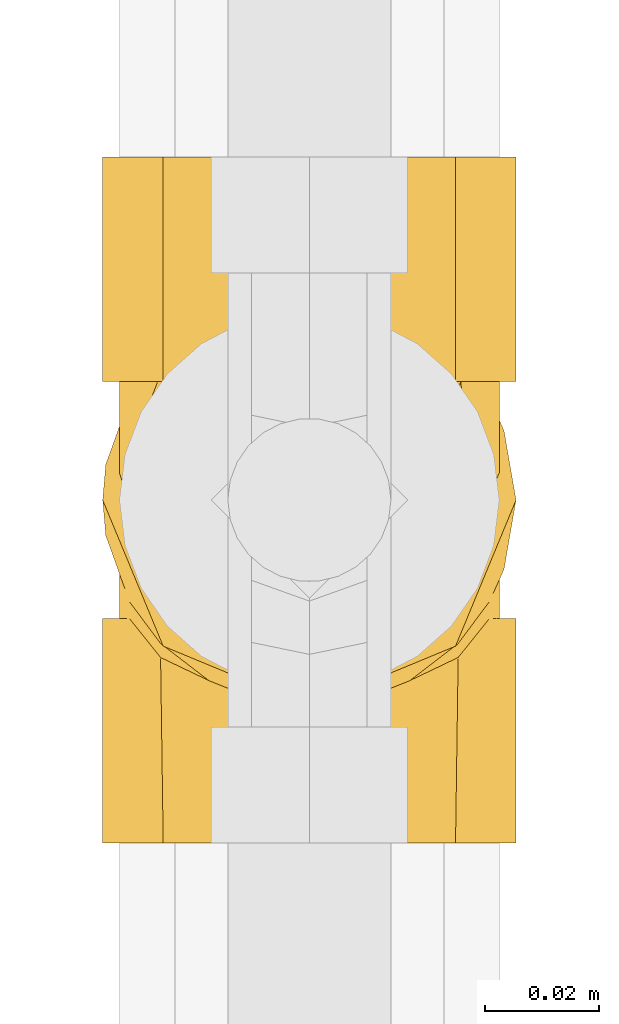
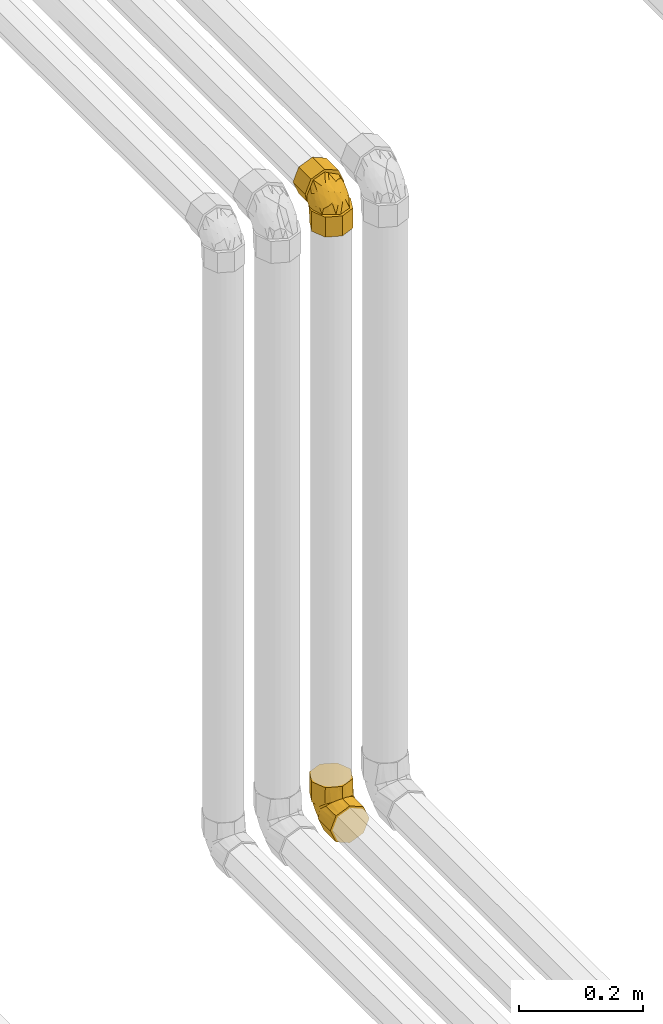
# One storey, part 247 of 652: 2 coverings.
"""IFC2X3 building model written with IfcOpenShell, lengths in millimetres."""

from ifc_helpers import new_model, entity, si_unit, converted_unit, direction, frame, origin, place, context, subcontext, project, spatial, faceted_brep, material, type_object, element, save


model = new_model("IFC2X3")

# Units and contexts
model_context = context("Model", 3, precision=0.01, world=frame((0.0, 0.0, 308426.39999999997)), true_north=direction((6.123233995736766e-17, 1.0)))
plan_context = context("Plan", 3, precision=0.01, world=frame((0.0, 0.0, 308426.39999999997)), true_north=direction((6.123233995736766e-17, 1.0)))
body_context = subcontext(model_context, "Body", "Model", "MODEL_VIEW")
ifc_project = project(units=[si_unit("LENGTHUNIT", "METRE", prefix="MILLI"), si_unit("AREAUNIT", "SQUARE_METRE"), si_unit("VOLUMEUNIT", "CUBIC_METRE"), converted_unit("PLANEANGLEUNIT", "DEGREE", entity("IfcPlaneAngleMeasure", 0.017453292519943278), si_unit("PLANEANGLEUNIT", "RADIAN"), dimensions=[0, 0, 0, 0, 0, 0, 0])], contexts=[model_context, plan_context])

# Site, building, storey
site_placement = place(None, origin())
site = spatial("IfcSite", under=ifc_project, at=site_placement, Name="Default", CompositionType="ELEMENT")
building_placement = place(site_placement, origin())
building = spatial("IfcBuilding", under=site, at=building_placement, CompositionType="ELEMENT")
storey_placement = place(building_placement, frame((0.0, 0.0, 1730.6999999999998)))
storey = spatial("IfcBuildingStorey", under=building, at=storey_placement, Name="EG_Produktion_FFB", CompositionType="ELEMENT", Elevation=1730.6999999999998)

# Coverings
ifc_material = material(Name="Dämmung - Armaflex-Schlauch")
covering_type = type_object("IfcCoveringType", Name="Rohrdämmung außen:Armaflex-Schlauch", PredefinedType="INSULATION")
covering_1_placement = place(storey_placement, frame((77742.20272776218, 51577.977603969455, 2362.2027277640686)))
element("IfcCovering", 1, at=covering_1_placement, inside=storey, type_object=covering_type, material=ifc_material, Name="Rohrdämmung außen:Armaflex-Schlauch", ObjectType="Rohrdämmung außen:Armaflex-Schlauch", PredefinedType="INSULATION", context=body_context, shape_type="Brep", body=[
    faceted_brep([(71.87876124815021, 47.84268255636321, 58.588772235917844), (69.29766488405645, 42.20950377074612, 58.588772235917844), (70.60633213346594, 48.65740674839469, 58.588772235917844), (71.08477223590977, 55.22156502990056, 58.588772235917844), (67.71555609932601, 62.98224402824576, 58.588772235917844), (64.3463399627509, 70.7429230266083, 58.588772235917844), (61.730299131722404, 76.76873209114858, 58.588772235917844), (59.11425830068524, 82.79454115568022, 58.588772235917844), (48.455765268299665, 86.80982431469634, 58.588772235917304), (37.79727223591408, 90.82510747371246, 58.588772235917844), (31.165885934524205, 87.38600173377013, 58.588772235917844), (24.534499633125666, 83.94689599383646, 58.588772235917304), (17.903113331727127, 80.5077902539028, 58.588772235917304), (11.271727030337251, 77.0686845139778, 58.588772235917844), (9.162676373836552, 70.25457778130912, 58.588772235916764), (7.053625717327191, 63.44047104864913, 58.588772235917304), (4.509772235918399, 55.22156502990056, 58.588772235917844), (4.988212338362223, 48.65740674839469, 58.588772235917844), (6.296879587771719, 42.20950377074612, 58.588772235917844), (2.1312790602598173, 53.8441619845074, 58.588772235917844), (1.5952722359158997, 60.05075000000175, 58.588772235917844), (4.747598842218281, 67.66113964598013, 58.588772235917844), (6.896932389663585, 72.85008984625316, 58.588772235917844), (9.547762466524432, 79.24975976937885, 58.588772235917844), (12.198592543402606, 85.64942969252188, 58.588772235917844), (18.598262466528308, 88.30025976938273, 58.588772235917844), (24.99793238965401, 90.9510898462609, 58.588772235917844), (31.39760231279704, 93.60191992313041, 58.588772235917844), (37.79727223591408, 96.25274999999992, 58.588772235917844), (45.407662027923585, 93.10042333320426, 58.588772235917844), (50.596612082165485, 90.9510898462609, 58.588772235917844), (56.996282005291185, 88.30025976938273, 58.588772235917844), (63.39595192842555, 85.64942969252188, 58.588772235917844), (66.04678200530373, 79.24975976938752, 58.588772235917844), (68.69761208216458, 72.85008984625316, 58.588772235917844), (71.34844215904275, 66.45041992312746, 58.588772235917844), (73.99927223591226, 60.05075000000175, 58.588772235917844), (12.198592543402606, 34.452070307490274, 97.84802223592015), (18.598262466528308, 31.801240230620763, 97.84802223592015), (24.99793238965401, 29.150410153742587, 97.84802223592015), (31.39760231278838, 26.499580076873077, 97.84802223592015), (37.79727223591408, 23.848750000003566, 97.84802223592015), (44.19694215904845, 26.499580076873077, 97.84802223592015), (50.59661208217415, 29.150410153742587, 97.84802223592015), (56.996282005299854, 31.801240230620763, 97.84802223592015), (63.39595192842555, 34.452070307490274, 97.84802223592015), (66.04678200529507, 40.851740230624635, 97.84802223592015), (68.69761208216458, 47.25141015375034, 97.84802223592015), (71.34844215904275, 53.65108007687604, 97.84802223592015), (73.99927223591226, 60.05075000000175, 97.84802223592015), (71.34844215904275, 66.45041992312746, 97.84802223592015), (68.69761208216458, 72.85008984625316, 97.84802223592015), (66.04678200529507, 79.24975976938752, 97.84802223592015), (63.39595192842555, 85.64942969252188, 97.84802223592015), (53.01805258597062, 89.94809634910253, 97.84802223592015), (45.407662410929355, 93.10042317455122, 97.84802223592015), (37.79727223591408, 96.25274999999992, 97.84802223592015), (31.39760231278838, 93.60191992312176, 97.84802223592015), (24.99793238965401, 90.9510898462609, 97.84802223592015), (18.598262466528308, 88.30025976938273, 97.84802223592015), (12.198592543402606, 85.64942969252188, 97.84802223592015), (7.899925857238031, 75.27153027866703, 97.84802223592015), (4.7475990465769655, 67.66114013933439, 97.84802223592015), (1.5952722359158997, 60.05075000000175, 97.84802223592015), (4.2461023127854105, 53.65108007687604, 97.84802223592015), (6.896932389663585, 47.25141015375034, 97.84802223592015), (9.547762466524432, 40.851740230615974, 97.84802223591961), (11.740817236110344, 34.91818234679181, 65.38133308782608), (28.451279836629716, 25.075941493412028, 72.77208074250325), (20.176179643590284, 28.426678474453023, 69.42134376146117), (37.79727223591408, 23.848750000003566, 73.99927223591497), (63.85372723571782, 34.91818234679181, 65.38133308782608), (47.14326463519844, 25.075941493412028, 72.77208074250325), (55.41836482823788, 28.426678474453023, 69.42134376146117), (73.99927223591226, 39.259249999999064, 37.797272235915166), (70.84694554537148, 39.259249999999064, 30.186882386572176), (68.69761208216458, 39.259249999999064, 24.99793238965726), (66.0467820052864, 39.259249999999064, 18.598262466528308), (63.39595192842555, 39.259249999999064, 12.198592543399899), (56.996282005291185, 39.259249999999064, 9.547762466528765), (50.59661208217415, 39.259249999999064, 6.8969323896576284), (44.19694215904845, 39.259249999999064, 4.246102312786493), (37.79727223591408, 39.259249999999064, 1.5952722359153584), (30.18688283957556, 39.259249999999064, 4.747598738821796), (24.99793238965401, 39.259249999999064, 6.8969323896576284), (18.598262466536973, 39.259249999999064, 9.547762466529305), (12.198592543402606, 39.259249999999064, 12.198592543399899), (9.547762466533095, 39.259249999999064, 18.59826246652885), (6.896932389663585, 39.259249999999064, 24.99793238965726), (4.2461023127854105, 39.259249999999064, 31.397602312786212), (1.5952722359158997, 39.259249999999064, 37.797272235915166), (3.7153254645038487, 39.259249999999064, 50.004061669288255), (6.296879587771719, 39.259249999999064, 55.63851846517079), (4.988212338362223, 39.259249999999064, 49.19061548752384), (4.509772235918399, 39.259249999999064, 42.626457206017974), (7.87898827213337, 39.259249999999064, 34.86577843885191), (11.248204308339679, 39.259249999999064, 27.10509967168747), (13.864245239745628, 39.259249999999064, 21.07929037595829), (16.480286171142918, 39.259249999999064, 15.053481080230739), (27.138779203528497, 39.259249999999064, 11.038197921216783), (37.79727223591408, 39.259249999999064, 7.022914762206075), (44.42865853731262, 39.259249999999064, 10.462020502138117), (51.060044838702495, 39.259249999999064, 13.901126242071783), (57.69143114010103, 39.259249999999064, 17.340231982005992), (64.32281744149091, 39.259249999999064, 20.779337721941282), (66.43186813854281, 39.259249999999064, 27.593444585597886), (68.54091883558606, 39.259249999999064, 34.40755144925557), (71.08477223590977, 39.259249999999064, 42.626457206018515), (70.60633213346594, 39.259249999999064, 49.19061548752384), (69.29766488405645, 39.259249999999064, 55.63851846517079), (73.46335606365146, 39.259249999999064, 44.0033392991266), (12.198592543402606, 0.0, 12.198592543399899), (22.576492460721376, 0.0, 7.899925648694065), (30.186882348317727, 0.0, 4.747598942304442), (37.79727223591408, 0.0, 1.5952722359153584), (44.19694215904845, 0.0, 4.246102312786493), (50.59661208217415, 0.0, 6.8969323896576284), (56.996282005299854, 0.0, 9.547762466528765), (63.39595192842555, 0.0, 12.198592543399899), (67.69461857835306, 0.0, 22.576491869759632), (70.84694540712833, 0.0, 30.186882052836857), (73.99927223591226, 0.0, 37.797272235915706), (71.34844215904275, 0.0, 44.19694215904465), (68.69761208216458, 0.0, 50.59661208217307), (66.04678200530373, 0.0, 56.996282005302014), (63.39595192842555, 0.0, 63.39595192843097), (56.996282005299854, 0.0, 66.04678200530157), (50.59661208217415, 0.0, 68.69761208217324), (44.19694215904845, 0.0, 71.34844215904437), (37.79727223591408, 0.0, 73.99927223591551), (31.39760231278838, 0.0, 71.34844215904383), (24.99793238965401, 0.0, 68.69761208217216), (18.598262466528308, 0.0, 66.04678200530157), (12.198592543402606, 0.0, 63.39595192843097), (9.547762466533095, 0.0, 56.996282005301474), (6.896932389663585, 0.0, 50.59661208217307), (4.2461023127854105, 0.0, 44.19694215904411), (1.5952722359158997, 0.0, 37.797272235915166), (4.2461023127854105, 0.0, 31.397602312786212), (6.896932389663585, 0.0, 24.99793238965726), (9.547762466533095, 0.0, 18.59826246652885), (11.737179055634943, 32.46931160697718, 62.92606742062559), (63.85736541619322, 32.46931160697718, 62.92606742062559), (7.176889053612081, 64.46975709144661, 48.63619914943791), (5.499665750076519, 53.53620771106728, 43.20614956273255), (4.509772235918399, 48.39608948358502, 49.451932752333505), (4.509772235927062, 51.69618600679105, 53.869566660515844), (4.509772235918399, 43.97845581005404, 46.15183640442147), (7.4096192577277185, 49.266854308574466, 32.77820750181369), (20.658922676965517, 70.89302761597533, 31.709116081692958), (28.033803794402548, 80.76404412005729, 39.27595733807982), (28.62447939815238, 68.07920285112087, 24.043589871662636), (14.417993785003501, 76.4220811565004, 47.986246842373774), (13.497052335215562, 68.93208707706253, 38.31563958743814), (10.22773262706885, 70.34057210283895, 47.45975333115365), (22.28882316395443, 56.04646872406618, 18.30781415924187), (14.07759439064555, 56.37753332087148, 25.792131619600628), (10.29838437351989, 54.931614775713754, 30.4094271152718), (20.692179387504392, 79.8641260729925, 44.141690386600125), (29.78499012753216, 55.72937800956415, 14.816734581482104), (37.79727223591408, 71.93390646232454, 25.914115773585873), (37.79727223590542, 82.58887454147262, 44.343194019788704), (37.79727223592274, 53.50482934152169, 15.25914834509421), (8.406458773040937, 59.635611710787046, 38.590887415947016), (71.08477223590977, 48.39608948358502, 49.451932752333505), (71.0847722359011, 51.6961860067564, 53.869566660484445), (71.0847722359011, 43.97845581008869, 46.15183640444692), (70.09487873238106, 54.64187234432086, 44.31181424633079), (62.097492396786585, 59.532384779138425, 28.91593723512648), (61.51694989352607, 72.055892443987, 41.4704912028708), (65.29616002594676, 67.43859640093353, 42.916409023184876), (54.93562200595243, 66.13891003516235, 26.95499830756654), (53.30572110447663, 79.54021097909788, 41.801558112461), (46.97006507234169, 73.80443609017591, 29.768823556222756), (45.80955540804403, 83.03128998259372, 42.11864888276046), (68.18492515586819, 65.06981549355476, 48.58116886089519), (47.5607401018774, 58.572069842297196, 17.083981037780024), (61.176550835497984, 49.86177721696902, 21.425942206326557), (65.36681198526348, 50.38826994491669, 27.507451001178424), (54.90236573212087, 53.706335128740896, 17.983898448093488), (68.41765540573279, 49.211823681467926, 33.37826549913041), (67.18808574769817, 59.257135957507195, 38.212411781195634)], [[[0, 1, 2, 3, 4, 5, 6, 7, 8, 9, 10, 11, 12, 13, 14, 15, 16, 17, 18, 19, 20, 21, 22, 23, 24, 25, 26, 27, 28, 29, 30, 31, 32, 33, 34, 35, 36]], [[37, 38, 39, 40, 41, 42, 43, 44, 45, 46, 47, 48, 49, 50, 51, 52, 53, 54, 55, 56, 57, 58, 59, 60, 61, 62, 63, 64, 65, 66]], [[38, 37, 67]], [[66, 67, 37]], [[67, 66, 18]], [[68, 39, 69]], [[69, 39, 38]], [[69, 38, 67]], [[65, 19, 18]], [[20, 19, 63]], [[40, 70, 41]], [[19, 65, 64, 63]], [[40, 39, 68]], [[70, 40, 68]], [[66, 65, 18]], [[63, 62, 61, 60, 24, 23, 22, 21, 20]], [[24, 60, 59, 58, 57, 56, 28, 27, 26, 25]], [[29, 28, 56, 55, 54, 53, 32, 31, 30]], [[32, 53, 52, 51, 50, 49, 36, 35, 34, 33]], [[71, 1, 46]], [[0, 47, 1]], [[1, 47, 46]], [[72, 43, 42]], [[71, 46, 45]], [[44, 71, 45]], [[36, 48, 0]], [[70, 42, 41]], [[48, 47, 0]], [[73, 43, 72]], [[71, 44, 73]], [[42, 70, 72]], [[48, 36, 49]], [[44, 43, 73]], [[74, 75, 76, 77, 78, 79, 80, 81, 82, 83, 84, 85, 86, 87, 88, 89, 90, 91, 92, 93, 94, 95, 96, 97, 98, 99, 100, 101, 102, 103, 104, 105, 106, 107, 108, 109, 110]], [[111, 112, 113, 114, 115, 116, 117, 118, 119, 120, 121, 122, 123, 124, 125, 126, 127, 128, 129, 130, 131, 132, 133, 134, 135, 136, 137, 138, 139, 140]], [[114, 113, 112, 111, 86, 85, 84, 83, 82]], [[86, 111, 140, 139, 138, 137, 90, 89, 88, 87]], [[141, 92, 134]], [[91, 135, 92]], [[68, 131, 130]], [[134, 133, 141]], [[132, 141, 133]], [[136, 135, 91]], [[90, 136, 91]], [[70, 130, 129]], [[136, 90, 137]], [[69, 131, 68]], [[141, 132, 69]], [[130, 70, 68]], [[92, 135, 134]], [[132, 131, 69]], [[126, 125, 142]], [[124, 142, 125]], [[142, 124, 109]], [[72, 127, 73]], [[73, 127, 126]], [[73, 126, 142]], [[123, 110, 109]], [[74, 110, 121]], [[128, 70, 129]], [[110, 123, 122, 121]], [[128, 127, 72]], [[70, 128, 72]], [[124, 123, 109]], [[75, 74, 121, 120, 119, 118, 78, 77, 76]], [[78, 118, 117, 116, 115, 114, 82, 81, 80, 79]], [[15, 143, 144]], [[144, 145, 146, 16]], [[144, 94, 147, 145]], [[96, 95, 148]], [[149, 150, 151]], [[152, 153, 154]], [[149, 155, 156]], [[153, 156, 157]], [[152, 158, 153]], [[16, 15, 144]], [[151, 159, 155]], [[96, 148, 157]], [[151, 155, 149]], [[153, 149, 156]], [[156, 97, 157]], [[160, 159, 151]], [[98, 156, 155]], [[99, 98, 155]], [[160, 150, 161]], [[99, 159, 100]], [[159, 160, 162, 100]], [[160, 151, 150]], [[150, 11, 10]], [[150, 149, 158]], [[10, 161, 150]], [[9, 161, 10]], [[99, 155, 159]], [[143, 15, 14]], [[152, 13, 12]], [[158, 12, 11]], [[150, 158, 11]], [[153, 158, 149]], [[158, 152, 12]], [[154, 163, 143]], [[154, 143, 14]], [[154, 13, 152]], [[143, 163, 144]], [[148, 144, 163]], [[94, 144, 95]], [[154, 14, 13]], [[163, 154, 153]], [[144, 148, 95]], [[157, 148, 163]], [[153, 157, 163]], [[156, 98, 97]], [[96, 157, 97]], [[18, 17, 145]], [[67, 141, 69]], [[141, 67, 18]], [[17, 16, 146, 145]], [[147, 94, 93, 145]], [[141, 18, 92]], [[93, 92, 145]], [[92, 18, 145]], [[164, 1, 109]], [[2, 164, 165, 3]], [[164, 2, 1]], [[1, 71, 142]], [[142, 109, 1]], [[108, 107, 166, 164]], [[108, 164, 109]], [[142, 71, 73]], [[107, 106, 167]], [[168, 169, 170]], [[171, 172, 169]], [[173, 172, 171]], [[167, 164, 166, 107]], [[173, 174, 172]], [[175, 170, 5]], [[168, 171, 169]], [[167, 3, 165, 164]], [[176, 173, 171]], [[177, 168, 178]], [[5, 4, 175]], [[177, 179, 168]], [[106, 180, 167]], [[169, 6, 170]], [[160, 174, 173]], [[7, 169, 172]], [[8, 7, 172]], [[160, 176, 162]], [[8, 174, 9]], [[174, 160, 161, 9]], [[160, 173, 176]], [[176, 102, 101]], [[176, 171, 179]], [[101, 162, 176]], [[100, 162, 101]], [[8, 172, 174]], [[180, 106, 105]], [[177, 104, 103]], [[179, 103, 102]], [[176, 179, 102]], [[168, 179, 171]], [[179, 177, 103]], [[178, 181, 180]], [[178, 180, 105]], [[178, 104, 177]], [[180, 181, 167]], [[175, 167, 181]], [[3, 167, 4]], [[178, 105, 104]], [[181, 178, 168]], [[167, 175, 4]], [[170, 175, 181]], [[168, 170, 181]], [[169, 7, 6]], [[5, 170, 6]]]),
])
covering_2_placement = place(storey_placement, frame((77742.20272776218, 51600.23108173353, 3539.949250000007)))
element("IfcCovering", 2, at=covering_2_placement, inside=storey, type_object=covering_type, material=ifc_material, Name="Rohrdämmung außen:Armaflex-Schlauch", ObjectType="Rohrdämmung außen:Armaflex-Schlauch", PredefinedType="INSULATION", context=body_context, shape_type="Brep", body=[
    faceted_brep([(71.87876124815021, 50.00533967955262, 39.25925000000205), (69.29766488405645, 55.6385184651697, 39.25925000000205), (70.60633213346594, 49.190615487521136, 39.25925000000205), (71.08477223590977, 42.62645720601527, 39.25925000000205), (67.71445901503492, 34.86648289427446, 39.25925000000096), (64.3441457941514, 27.106508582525, 39.25925000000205), (61.725192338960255, 21.076501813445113, 39.25925000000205), (59.10623888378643, 15.0464950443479, 39.25925000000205), (48.45175555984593, 11.034704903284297, 39.25925000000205), (37.79727223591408, 7.022914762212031, 39.25925000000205), (31.16766916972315, 10.459541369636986, 39.25925000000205), (24.53806610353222, 13.896167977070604, 39.25925000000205), (17.908463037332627, 17.332794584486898, 39.25925000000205), (11.278859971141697, 20.769421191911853, 39.25925000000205), (9.166908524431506, 27.58880374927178, 39.25925000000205), (7.054957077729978, 34.408186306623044, 39.25925000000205), (4.509772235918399, 42.62645720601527, 39.25925000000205), (4.988212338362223, 49.190615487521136, 39.25925000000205), (6.296879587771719, 55.6385184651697, 39.25925000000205), (2.1312790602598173, 44.003860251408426, 39.25925000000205), (1.5952722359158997, 37.79727223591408, 39.25925000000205), (4.747598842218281, 30.18688258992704, 39.25925000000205), (6.896932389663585, 24.99793238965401, 39.25925000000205), (9.547762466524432, 18.598262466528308, 39.25925000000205), (12.198592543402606, 12.198592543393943, 39.25925000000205), (18.598262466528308, 9.547762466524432, 39.25925000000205), (24.99793238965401, 6.896932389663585, 39.25925000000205), (31.39760231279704, 4.246102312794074, 39.25925000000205), (37.79727223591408, 1.5952722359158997, 39.25925000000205), (45.407662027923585, 4.74759890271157, 39.25925000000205), (50.596612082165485, 6.896932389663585, 39.25925000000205), (56.996282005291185, 9.547762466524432, 39.25925000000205), (63.39595192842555, 12.198592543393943, 39.25925000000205), (66.04678200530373, 18.598262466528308, 39.25925000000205), (68.69761208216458, 24.99793238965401, 39.25925000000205), (71.34844215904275, 31.39760231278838, 39.25925000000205), (73.99927223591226, 37.79727223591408, 39.25925000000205), (12.198592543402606, 63.39595192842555, 0.0), (18.598262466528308, 66.04678200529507, 0.0), (24.99793238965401, 68.69761208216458, 0.0), (31.39760231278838, 71.34844215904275, 0.0), (37.79727223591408, 73.99927223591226, 0.0), (44.19694215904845, 71.34844215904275, 0.0), (50.59661208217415, 68.69761208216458, 0.0), (56.996282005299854, 66.04678200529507, 0.0), (63.39595192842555, 63.39595192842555, 0.0), (66.04678200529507, 56.996282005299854, 0.0), (68.69761208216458, 50.59661208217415, 0.0), (71.34844215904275, 44.19694215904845, 0.0), (73.99927223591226, 37.79727223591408, 0.0), (71.34844215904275, 31.39760231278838, 0.0), (68.69761208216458, 24.99793238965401, 0.0), (66.04678200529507, 18.598262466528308, 0.0), (63.39595192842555, 12.198592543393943, 0.0), (53.01805258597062, 7.899925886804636, 0.0), (45.407662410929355, 4.7475990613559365, 0.0), (37.79727223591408, 1.5952722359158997, 0.0), (31.39760231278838, 4.2461023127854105, 0.0), (24.99793238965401, 6.896932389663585, 0.0), (18.598262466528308, 9.547762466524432, 0.0), (12.198592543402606, 12.198592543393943, 0.0), (7.899925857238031, 22.576491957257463, 0.0), (4.7475990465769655, 30.186882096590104, 0.0), (1.5952722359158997, 37.79727223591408, 0.0), (4.2461023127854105, 44.196942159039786, 0.0), (6.896932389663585, 50.59661208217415, 0.0), (9.547762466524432, 56.996282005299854, 0.0), (11.740817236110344, 62.92983988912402, 32.466689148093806), (28.451279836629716, 72.7720807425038, 25.07594149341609), (20.176179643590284, 69.42134376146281, 28.42667847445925), (37.79727223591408, 73.99927223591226, 23.848750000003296), (63.85372723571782, 62.92983988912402, 32.466689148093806), (47.14326463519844, 72.7720807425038, 25.07594149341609), (55.41836482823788, 69.42134376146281, 28.42667847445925), (73.99927223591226, 58.588772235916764, 60.05075000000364), (70.84694554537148, 58.588772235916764, 67.66113984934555), (68.69761208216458, 58.588772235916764, 72.85008984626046), (66.0467820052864, 58.588772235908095, 79.24975976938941), (63.39595192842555, 58.588772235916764, 85.64942969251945), (56.996282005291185, 58.588772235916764, 88.30025976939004), (50.59661208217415, 58.588772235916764, 90.95108984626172), (44.19694215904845, 58.588772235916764, 93.60191992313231), (37.79727223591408, 58.588772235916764, 96.25275000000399), (30.18688283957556, 58.588772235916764, 93.10042349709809), (24.99793238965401, 58.588772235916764, 90.95108984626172), (18.598262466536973, 58.588772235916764, 88.30025976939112), (12.198592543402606, 58.588772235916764, 85.64942969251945), (9.547762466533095, 58.588772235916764, 79.2497597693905), (6.896932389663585, 58.588772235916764, 72.85008984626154), (4.2461023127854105, 58.588772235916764, 66.4504199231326), (1.5952722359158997, 58.588772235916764, 60.05075000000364), (3.7153254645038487, 58.588772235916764, 47.84396056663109), (6.296879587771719, 58.588772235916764, 42.209503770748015), (4.988212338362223, 58.588772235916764, 48.65740674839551), (4.509772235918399, 58.588772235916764, 55.22156502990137), (7.880085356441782, 58.588772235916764, 62.98153911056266), (11.250398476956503, 58.588772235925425, 70.74151319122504), (13.869352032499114, 58.588772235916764, 76.77152019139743), (16.488305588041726, 58.588772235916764, 82.80152719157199), (27.14278891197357, 58.588772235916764, 86.813317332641), (37.79727223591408, 58.588772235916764, 90.82510747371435), (44.42687530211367, 58.588772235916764, 87.38848086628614), (51.0564783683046, 58.588772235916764, 83.95185425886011), (57.686081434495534, 58.588772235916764, 80.51522765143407), (64.31568450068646, 58.588772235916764, 77.0786010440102), (66.42763598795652, 58.588772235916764, 70.25921835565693), (68.53958747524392, 58.588772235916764, 63.43983566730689), (71.08477223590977, 58.588772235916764, 55.22156502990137), (70.60633213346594, 58.588772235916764, 48.65740674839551), (69.29766488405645, 58.588772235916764, 42.209503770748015), (73.46335606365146, 58.588772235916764, 53.8446829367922), (4.2461023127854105, 97.84802223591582, 66.4504199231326), (6.896932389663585, 97.84802223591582, 72.85008984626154), (9.547762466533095, 97.84802223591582, 79.2497597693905), (12.198592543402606, 97.84802223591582, 85.64942969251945), (22.576492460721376, 97.84802223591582, 89.94809658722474), (30.186882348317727, 97.84802223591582, 93.10042329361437), (37.79727223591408, 97.84802223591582, 96.25275000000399), (44.19694215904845, 97.84802223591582, 93.60191992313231), (50.59661208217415, 97.84802223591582, 90.95108984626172), (56.996282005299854, 97.84802223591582, 88.30025976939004), (63.39595192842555, 97.84802223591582, 85.64942969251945), (67.69461857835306, 97.84802223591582, 75.27153036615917), (70.84694540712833, 97.84802223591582, 67.66114018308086), (73.99927223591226, 97.84802223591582, 60.05075000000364), (71.34844215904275, 97.84802223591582, 53.65108007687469), (68.69761208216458, 97.84802223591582, 47.25141015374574), (66.04678200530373, 97.84802223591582, 40.85174023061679), (63.39595192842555, 97.84802223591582, 34.45207030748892), (56.996282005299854, 97.84802223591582, 31.80124023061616), (50.59661208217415, 97.84802223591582, 29.150410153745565), (44.19694215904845, 97.84802223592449, 26.49958007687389), (37.79727223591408, 97.84802223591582, 23.84875000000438), (31.39760231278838, 97.84802223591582, 26.49958007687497), (24.99793238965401, 97.84802223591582, 29.150410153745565), (18.598262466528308, 97.84802223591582, 31.801240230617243), (12.198592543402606, 97.84802223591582, 34.45207030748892), (9.547762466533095, 97.84802223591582, 40.85174023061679), (6.896932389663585, 97.84802223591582, 47.25141015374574), (4.2461023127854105, 97.84802223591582, 53.65108007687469), (1.5952722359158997, 97.84802223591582, 60.05075000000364), (11.737179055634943, 65.37871062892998, 34.92195481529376), (63.85736541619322, 65.37871062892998, 34.92195481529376), (7.177794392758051, 33.37465355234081, 49.210183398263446), (5.499599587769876, 44.30542179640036, 54.6353152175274), (4.509772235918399, 49.45193275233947, 48.39608948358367), (4.509772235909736, 46.15183622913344, 43.978455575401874), (4.509772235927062, 53.86956642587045, 51.69618583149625), (7.409565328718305, 48.580984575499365, 65.0695523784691), (20.658699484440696, 26.964693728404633, 66.14940844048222), (28.03664899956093, 17.094525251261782, 58.590346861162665), (28.624831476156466, 29.78509917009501, 73.81910229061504), (14.425393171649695, 21.419266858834, 49.86476535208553), (13.497141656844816, 28.912706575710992, 59.528532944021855), (10.228050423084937, 27.507803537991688, 50.38976739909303), (22.27387615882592, 41.80178984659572, 79.53115199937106), (14.075076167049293, 41.47102568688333, 72.05314656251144), (10.297293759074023, 42.91617535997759, 67.43644027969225), (20.69904166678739, 17.983915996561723, 53.71476365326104), (29.773051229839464, 42.15849326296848, 83.05038596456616), (37.79727223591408, 25.914115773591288, 71.93390646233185), (37.79727223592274, 15.259147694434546, 53.50482821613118), (37.79727223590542, 44.343192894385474, 82.58887389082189), (8.406242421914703, 38.212709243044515, 59.25685821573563), (71.08477223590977, 49.45193275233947, 48.39608948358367), (71.08477223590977, 46.15183622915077, 43.9784555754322), (71.08477223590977, 53.86956642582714, 51.69618583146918), (70.09494489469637, 43.21270734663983, 53.54260071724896), (62.097403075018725, 38.31948716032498, 68.93531358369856), (61.51946811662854, 25.794873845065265, 56.37699426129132), (65.29725064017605, 30.411580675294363, 54.9318453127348), (54.935845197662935, 31.698609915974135, 70.88332482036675), (53.320668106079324, 18.316867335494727, 56.04622779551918), (46.96971299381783, 24.028916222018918, 68.06291889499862), (45.82149430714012, 14.797633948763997, 55.68952431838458), (68.18497908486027, 32.77846909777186, 49.26703672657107), (47.55789489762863, 39.257670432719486, 80.75349406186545), (61.16915144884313, 47.983255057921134, 76.42875424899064), (65.36649418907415, 47.45825379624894, 70.34021782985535), (54.89550345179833, 44.133255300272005, 79.86410395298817), (68.41675006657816, 48.63783824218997, 64.47336832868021), (67.18830209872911, 38.59116288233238, 59.63531173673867)], [[[0, 1, 2, 3, 4, 5, 6, 7, 8, 9, 10, 11, 12, 13, 14, 15, 16, 17, 18, 19, 20, 21, 22, 23, 24, 25, 26, 27, 28, 29, 30, 31, 32, 33, 34, 35, 36]], [[37, 38, 39, 40, 41, 42, 43, 44, 45, 46, 47, 48, 49, 50, 51, 52, 53, 54, 55, 56, 57, 58, 59, 60, 61, 62, 63, 64, 65, 66]], [[38, 37, 67]], [[66, 67, 37]], [[67, 66, 18]], [[68, 39, 69]], [[69, 39, 38]], [[69, 38, 67]], [[65, 19, 18]], [[20, 19, 63]], [[40, 70, 41]], [[19, 65, 64, 63]], [[40, 39, 68]], [[70, 40, 68]], [[66, 65, 18]], [[63, 62, 61, 60, 24, 23, 22, 21, 20]], [[24, 60, 59, 58, 57, 56, 28, 27, 26, 25]], [[29, 28, 56, 55, 54, 53, 32, 31, 30]], [[32, 53, 52, 51, 50, 49, 36, 35, 34, 33]], [[71, 1, 46]], [[0, 47, 1]], [[1, 47, 46]], [[72, 43, 42]], [[71, 46, 45]], [[44, 71, 45]], [[36, 48, 0]], [[70, 42, 41]], [[48, 47, 0]], [[73, 43, 72]], [[71, 44, 73]], [[42, 70, 72]], [[48, 36, 49]], [[44, 43, 73]], [[74, 75, 76, 77, 78, 79, 80, 81, 82, 83, 84, 85, 86, 87, 88, 89, 90, 91, 92, 93, 94, 95, 96, 97, 98, 99, 100, 101, 102, 103, 104, 105, 106, 107, 108, 109, 110]], [[111, 112, 113, 114, 115, 116, 117, 118, 119, 120, 121, 122, 123, 124, 125, 126, 127, 128, 129, 130, 131, 132, 133, 134, 135, 136, 137, 138, 139, 140]], [[117, 116, 115, 114, 86, 85, 84, 83, 82]], [[86, 114, 113, 112, 111, 140, 90, 89, 88, 87]], [[141, 92, 137]], [[91, 138, 92]], [[68, 134, 133]], [[137, 136, 141]], [[135, 141, 136]], [[139, 138, 91]], [[90, 139, 91]], [[70, 133, 132]], [[139, 90, 140]], [[69, 134, 68]], [[141, 135, 69]], [[133, 70, 68]], [[92, 138, 137]], [[135, 134, 69]], [[129, 128, 142]], [[127, 142, 128]], [[142, 127, 109]], [[72, 130, 73]], [[73, 130, 129]], [[73, 129, 142]], [[126, 110, 109]], [[74, 110, 124]], [[131, 70, 132]], [[110, 126, 125, 124]], [[131, 130, 72]], [[70, 131, 72]], [[127, 126, 109]], [[75, 74, 124, 123, 122, 121, 78, 77, 76]], [[78, 121, 120, 119, 118, 117, 82, 81, 80, 79]], [[15, 143, 144]], [[144, 145, 146, 16]], [[144, 94, 147, 145]], [[96, 95, 148]], [[149, 150, 151]], [[152, 153, 154]], [[149, 155, 156]], [[153, 156, 157]], [[152, 158, 153]], [[16, 15, 144]], [[151, 159, 155]], [[96, 148, 157]], [[151, 155, 149]], [[153, 149, 156]], [[156, 97, 157]], [[160, 159, 151]], [[98, 156, 155]], [[99, 98, 155]], [[160, 150, 161]], [[99, 159, 100]], [[159, 160, 162, 100]], [[160, 151, 150]], [[150, 11, 10]], [[150, 149, 158]], [[10, 161, 150]], [[9, 161, 10]], [[99, 155, 159]], [[143, 15, 14]], [[152, 13, 12]], [[158, 12, 11]], [[150, 158, 11]], [[153, 158, 149]], [[158, 152, 12]], [[154, 163, 143]], [[154, 143, 14]], [[154, 13, 152]], [[143, 163, 144]], [[148, 144, 163]], [[94, 144, 95]], [[154, 14, 13]], [[163, 154, 153]], [[144, 148, 95]], [[157, 148, 163]], [[153, 157, 163]], [[156, 98, 97]], [[96, 157, 97]], [[18, 17, 145]], [[67, 141, 69]], [[141, 67, 18]], [[17, 16, 146, 145]], [[147, 94, 93, 145]], [[141, 18, 92]], [[93, 92, 145]], [[92, 18, 145]], [[164, 1, 109]], [[2, 164, 165, 3]], [[164, 2, 1]], [[1, 71, 142]], [[142, 109, 1]], [[108, 107, 166, 164]], [[108, 164, 109]], [[142, 71, 73]], [[107, 106, 167]], [[168, 169, 170]], [[171, 172, 169]], [[173, 172, 171]], [[167, 164, 166, 107]], [[173, 174, 172]], [[175, 170, 5]], [[168, 171, 169]], [[167, 3, 165, 164]], [[176, 173, 171]], [[177, 168, 178]], [[5, 4, 175]], [[177, 179, 168]], [[106, 180, 167]], [[169, 6, 170]], [[160, 174, 173]], [[7, 169, 172]], [[8, 7, 172]], [[160, 176, 162]], [[8, 174, 9]], [[174, 160, 161, 9]], [[160, 173, 176]], [[176, 102, 101]], [[176, 171, 179]], [[101, 162, 176]], [[100, 162, 101]], [[8, 172, 174]], [[180, 106, 105]], [[177, 104, 103]], [[179, 103, 102]], [[176, 179, 102]], [[168, 179, 171]], [[179, 177, 103]], [[178, 181, 180]], [[178, 180, 105]], [[178, 104, 177]], [[180, 181, 167]], [[175, 167, 181]], [[3, 167, 4]], [[178, 105, 104]], [[181, 178, 168]], [[167, 175, 4]], [[170, 175, 181]], [[168, 170, 181]], [[169, 7, 6]], [[5, 170, 6]]]),
])

save(model, "model.ifc")
